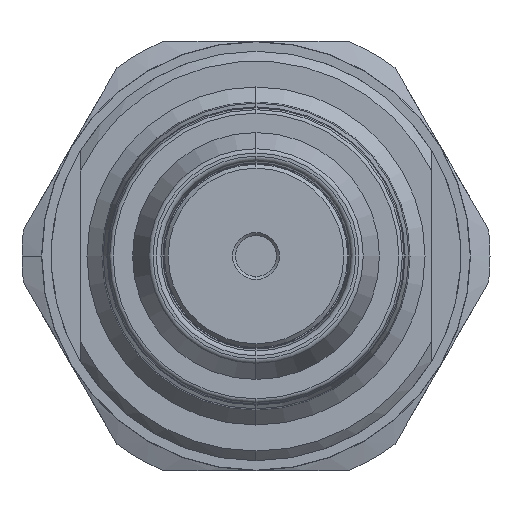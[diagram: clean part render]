
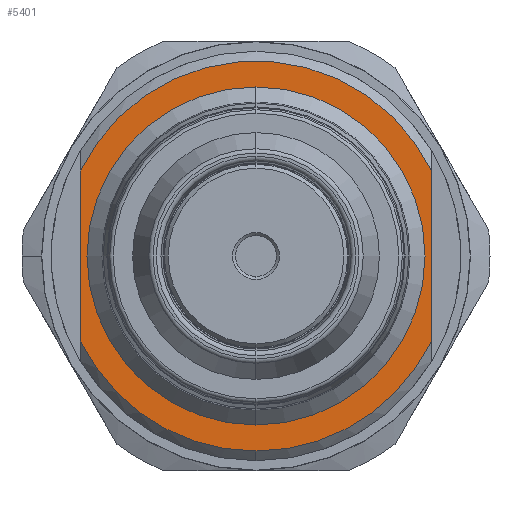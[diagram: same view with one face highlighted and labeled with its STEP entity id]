
A CAD part, left-side view. The second image highlights one B-rep face of the part: STEP entity #5401.
In plain terms, the highlighted planar face has unit normal (-1, 0, 0).
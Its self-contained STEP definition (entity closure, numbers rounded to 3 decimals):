
#29 = EDGE_LOOP ( 'NONE', ( #1250, #1259, #1270, #1269, #1265 ) ) ;
#55 = EDGE_LOOP ( 'NONE', ( #492, #1279 ) ) ;
#198 = PLANE ( 'NONE',  #3557 ) ;
#231 = CARTESIAN_POINT ( 'NONE',  ( 17.923, 0., 0. ) ) ;
#235 = DIRECTION ( 'NONE',  ( 1., 0., 0. ) ) ;
#236 = DIRECTION ( 'NONE',  ( 0., 0., -1. ) ) ;
#376 = VERTEX_POINT ( 'NONE', #3203 ) ;
#405 = VERTEX_POINT ( 'NONE', #3230 ) ;
#492 = ORIENTED_EDGE ( 'NONE', *, *, #5549, .F. ) ;
#696 = CIRCLE ( 'NONE', #3687, 10. ) ;
#729 = LINE ( 'NONE', #4101, #732 ) ;
#732 = VECTOR ( 'NONE', #4080, 1000. ) ;
#735 = CIRCLE ( 'NONE', #3700, 8.669 ) ;
#766 = CIRCLE ( 'NONE', #3699, 10. ) ;
#767 = VECTOR ( 'NONE', #4226, 1000. ) ;
#794 = CIRCLE ( 'NONE', #3673, 10. ) ;
#800 = LINE ( 'NONE', #4225, #767 ) ;
#821 = CIRCLE ( 'NONE', #3722, 8.669 ) ;
#1250 = ORIENTED_EDGE ( 'NONE', *, *, #5592, .T. ) ;
#1259 = ORIENTED_EDGE ( 'NONE', *, *, #5598, .T. ) ;
#1265 = ORIENTED_EDGE ( 'NONE', *, *, #5548, .T. ) ;
#1269 = ORIENTED_EDGE ( 'NONE', *, *, #5570, .T. ) ;
#1270 = ORIENTED_EDGE ( 'NONE', *, *, #5538, .T. ) ;
#1279 = ORIENTED_EDGE ( 'NONE', *, *, #5626, .F. ) ;
#1844 = VERTEX_POINT ( 'NONE', #2947 ) ;
#1846 = VERTEX_POINT ( 'NONE', #2992 ) ;
#1859 = VERTEX_POINT ( 'NONE', #2953 ) ;
#1872 = VERTEX_POINT ( 'NONE', #2960 ) ;
#1876 = VERTEX_POINT ( 'NONE', #2964 ) ;
#2947 = CARTESIAN_POINT ( 'NONE',  ( 17.923, 9., -4.359 ) ) ;
#2953 = CARTESIAN_POINT ( 'NONE',  ( 17.923, 9., 4.359 ) ) ;
#2960 = CARTESIAN_POINT ( 'NONE',  ( 17.923, 0., -10. ) ) ;
#2964 = CARTESIAN_POINT ( 'NONE',  ( 17.923, -9., -4.359 ) ) ;
#2992 = CARTESIAN_POINT ( 'NONE',  ( 17.923, 0., 8.669 ) ) ;
#3203 = CARTESIAN_POINT ( 'NONE',  ( 17.923, -9., 4.359 ) ) ;
#3230 = CARTESIAN_POINT ( 'NONE',  ( 17.923, 0., -8.669 ) ) ;
#3557 = AXIS2_PLACEMENT_3D ( 'NONE', #231, #235, #236 ) ;
#3673 = AXIS2_PLACEMENT_3D ( 'NONE', #4141, #4128, #4129 ) ;
#3687 = AXIS2_PLACEMENT_3D ( 'NONE', #4073, #4053, #4034 ) ;
#3699 = AXIS2_PLACEMENT_3D ( 'NONE', #4222, #4199, #4197 ) ;
#3700 = AXIS2_PLACEMENT_3D ( 'NONE', #4109, #4114, #4110 ) ;
#3722 = AXIS2_PLACEMENT_3D ( 'NONE', #4311, #4309, #4289 ) ;
#4034 = DIRECTION ( 'NONE',  ( 0., 0., 1. ) ) ;
#4053 = DIRECTION ( 'NONE',  ( -1., 0., 0. ) ) ;
#4073 = CARTESIAN_POINT ( 'NONE',  ( 17.923, 0., 0. ) ) ;
#4080 = DIRECTION ( 'NONE',  ( 0., 0., 1. ) ) ;
#4101 = CARTESIAN_POINT ( 'NONE',  ( 17.923, -9., 0. ) ) ;
#4109 = CARTESIAN_POINT ( 'NONE',  ( 17.923, 0., 0. ) ) ;
#4110 = DIRECTION ( 'NONE',  ( 0., 0., 1. ) ) ;
#4114 = DIRECTION ( 'NONE',  ( -1., 0., 0. ) ) ;
#4128 = DIRECTION ( 'NONE',  ( -1., 0., 0. ) ) ;
#4129 = DIRECTION ( 'NONE',  ( 0., 0., 1. ) ) ;
#4141 = CARTESIAN_POINT ( 'NONE',  ( 17.923, 0., 0. ) ) ;
#4197 = DIRECTION ( 'NONE',  ( 0., 0., 1. ) ) ;
#4199 = DIRECTION ( 'NONE',  ( -1., 0., 0. ) ) ;
#4222 = CARTESIAN_POINT ( 'NONE',  ( 17.923, 0., 0. ) ) ;
#4225 = CARTESIAN_POINT ( 'NONE',  ( 17.923, 9., 0. ) ) ;
#4226 = DIRECTION ( 'NONE',  ( 0., 0., -1. ) ) ;
#4289 = DIRECTION ( 'NONE',  ( 0., 0., 1. ) ) ;
#4309 = DIRECTION ( 'NONE',  ( -1., 0., 0. ) ) ;
#4311 = CARTESIAN_POINT ( 'NONE',  ( 17.923, 0., 0. ) ) ;
#4835 = FACE_BOUND ( 'NONE', #55, .T. ) ;
#4865 = FACE_OUTER_BOUND ( 'NONE', #29, .T. ) ;
#5401 = ADVANCED_FACE ( 'NONE', ( #4835, #4865 ), #198, .F. ) ;
#5538 = EDGE_CURVE ( 'NONE', #1844, #1872, #696, .T. ) ;
#5548 = EDGE_CURVE ( 'NONE', #1876, #376, #729, .T. ) ;
#5549 = EDGE_CURVE ( 'NONE', #405, #1846, #735, .T. ) ;
#5570 = EDGE_CURVE ( 'NONE', #1872, #1876, #794, .T. ) ;
#5592 = EDGE_CURVE ( 'NONE', #376, #1859, #766, .T. ) ;
#5598 = EDGE_CURVE ( 'NONE', #1859, #1844, #800, .T. ) ;
#5626 = EDGE_CURVE ( 'NONE', #1846, #405, #821, .T. ) ;
